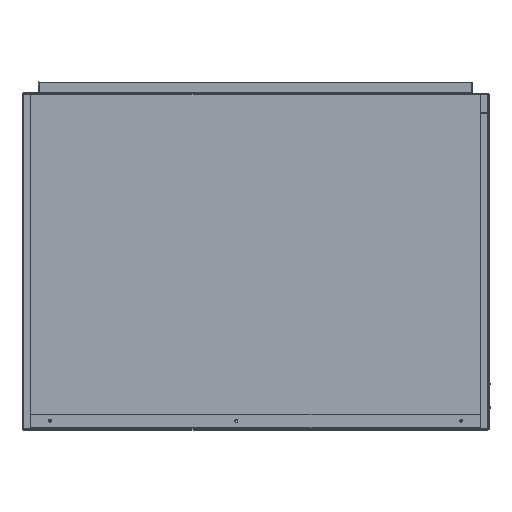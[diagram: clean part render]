
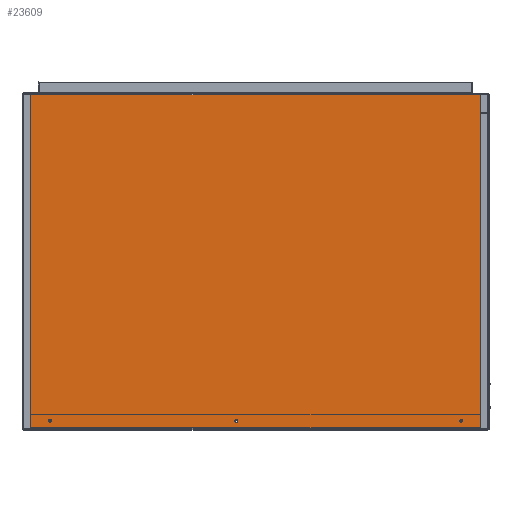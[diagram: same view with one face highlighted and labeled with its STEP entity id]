
A CAD part, top view. The second image highlights one B-rep face of the part: STEP entity #23609.
In plain terms, the highlighted planar face has unit normal (0, 0, 1) as drawn and (1, 0, 0) by its records, which use the part's own axes.
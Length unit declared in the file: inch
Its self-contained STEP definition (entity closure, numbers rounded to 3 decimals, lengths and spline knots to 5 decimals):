
#22 = EDGE_LOOP ( 'NONE', ( #13805, #5583 ) ) ;
#250 = DIRECTION ( 'NONE',  ( 0., 0., -1. ) ) ;
#304 = DIRECTION ( 'NONE',  ( -1., 0., 0. ) ) ;
#335 = CARTESIAN_POINT ( 'NONE',  ( 0.5245, 1.011, 1.76225 ) ) ;
#905 = EDGE_CURVE ( 'NONE', #24438, #24659, #1916, .T. ) ;
#1523 = EDGE_CURVE ( 'NONE', #11393, #22933, #18966, .T. ) ;
#1856 = CIRCLE ( 'NONE', #10457, 0.09375 ) ;
#1916 = CIRCLE ( 'NONE', #19115, 0.09375 ) ;
#2730 = DIRECTION ( 'NONE',  ( 0., 1., 0. ) ) ;
#3079 = CARTESIAN_POINT ( 'NONE',  ( 0.5245, 1.011, 28.234 ) ) ;
#3080 = VECTOR ( 'NONE', #4083, 39.37008 ) ;
#3573 = VECTOR ( 'NONE', #2730, 39.37008 ) ;
#4083 = DIRECTION ( 'NONE',  ( 0., 0., -1. ) ) ;
#4281 = DIRECTION ( 'NONE',  ( -1., 0., 0. ) ) ;
#4575 = ORIENTED_EDGE ( 'NONE', *, *, #18350, .F. ) ;
#4701 = DIRECTION ( 'NONE',  ( -1., 0., 0. ) ) ;
#5084 = ORIENTED_EDGE ( 'NONE', *, *, #12799, .T. ) ;
#5155 = DIRECTION ( 'NONE',  ( 0., 0., -1. ) ) ;
#5583 = ORIENTED_EDGE ( 'NONE', *, *, #12071, .T. ) ;
#5646 = EDGE_LOOP ( 'NONE', ( #13647, #12626, #4575, #21156 ) ) ;
#5970 = EDGE_CURVE ( 'NONE', #24659, #24438, #19665, .T. ) ;
#6460 = EDGE_CURVE ( 'NONE', #10548, #11393, #18307, .T. ) ;
#6500 = CARTESIAN_POINT ( 'NONE',  ( 0.5245, 0.5, 30. ) ) ;
#7520 = FACE_BOUND ( 'NONE', #19931, .T. ) ;
#7690 = DIRECTION ( 'NONE',  ( -1., 0., 0. ) ) ;
#8133 = CARTESIAN_POINT ( 'NONE',  ( 0.5245, 22.00212, 30. ) ) ;
#8147 = FACE_BOUND ( 'NONE', #20950, .T. ) ;
#8583 = DIRECTION ( 'NONE',  ( 0., 0., 1. ) ) ;
#8876 = VERTEX_POINT ( 'NONE', #10211 ) ;
#8958 = AXIS2_PLACEMENT_3D ( 'NONE', #3079, #17508, #5155 ) ;
#9288 = DIRECTION ( 'NONE',  ( -1., 0., 0. ) ) ;
#9539 = EDGE_CURVE ( 'NONE', #18430, #21309, #13102, .T. ) ;
#9608 = CARTESIAN_POINT ( 'NONE',  ( 0.5245, 0.54688, 30. ) ) ;
#10192 = CARTESIAN_POINT ( 'NONE',  ( 0.5245, 0.5, 0.08488 ) ) ;
#10207 = VERTEX_POINT ( 'NONE', #26725 ) ;
#10211 = CARTESIAN_POINT ( 'NONE',  ( 0.5245, 1.011, 28.32775 ) ) ;
#10247 = CIRCLE ( 'NONE', #13584, 0.09375 ) ;
#10439 = PLANE ( 'NONE',  #23937 ) ;
#10457 = AXIS2_PLACEMENT_3D ( 'NONE', #16659, #4281, #18719 ) ;
#10548 = VERTEX_POINT ( 'NONE', #20852 ) ;
#11393 = VERTEX_POINT ( 'NONE', #18779 ) ;
#12071 = EDGE_CURVE ( 'NONE', #8876, #10207, #10247, .T. ) ;
#12626 = ORIENTED_EDGE ( 'NONE', *, *, #13780, .F. ) ;
#12799 = EDGE_CURVE ( 'NONE', #21309, #18430, #1856, .T. ) ;
#12899 = CARTESIAN_POINT ( 'NONE',  ( 0.5245, 0.5, 29.91513 ) ) ;
#13102 = CIRCLE ( 'NONE', #25915, 0.09375 ) ;
#13381 = EDGE_CURVE ( 'NONE', #10207, #8876, #18620, .T. ) ;
#13584 = AXIS2_PLACEMENT_3D ( 'NONE', #21687, #9288, #23712 ) ;
#13647 = ORIENTED_EDGE ( 'NONE', *, *, #6460, .F. ) ;
#13780 = EDGE_CURVE ( 'NONE', #22000, #10548, #14035, .T. ) ;
#13805 = ORIENTED_EDGE ( 'NONE', *, *, #13381, .T. ) ;
#14035 = LINE ( 'NONE', #8133, #3080 ) ;
#14835 = DIRECTION ( 'NONE',  ( 0., 0., 1. ) ) ;
#15069 = CARTESIAN_POINT ( 'NONE',  ( 0.5245, 1.011, 1.6685 ) ) ;
#16659 = CARTESIAN_POINT ( 'NONE',  ( 0.5245, 1.011, 16.234 ) ) ;
#16785 = ORIENTED_EDGE ( 'NONE', *, *, #9539, .T. ) ;
#17060 = CARTESIAN_POINT ( 'NONE',  ( 0.5245, 1.011, 1.76225 ) ) ;
#17508 = DIRECTION ( 'NONE',  ( -1., 0., 0. ) ) ;
#17656 = CARTESIAN_POINT ( 'NONE',  ( 0.5245, 1.011, 16.32775 ) ) ;
#17841 = FACE_OUTER_BOUND ( 'NONE', #5646, .T. ) ;
#18307 = LINE ( 'NONE', #10192, #26323 ) ;
#18350 = EDGE_CURVE ( 'NONE', #22933, #22000, #20058, .T. ) ;
#18430 = VERTEX_POINT ( 'NONE', #25871 ) ;
#18529 = AXIS2_PLACEMENT_3D ( 'NONE', #17060, #4701, #19123 ) ;
#18540 = VECTOR ( 'NONE', #14835, 39.37008 ) ;
#18620 = CIRCLE ( 'NONE', #8958, 0.09375 ) ;
#18719 = DIRECTION ( 'NONE',  ( 0., 0., -1. ) ) ;
#18779 = CARTESIAN_POINT ( 'NONE',  ( 0.5245, 0.54687, 0.08488 ) ) ;
#18966 = LINE ( 'NONE', #9608, #18540 ) ;
#19115 = AXIS2_PLACEMENT_3D ( 'NONE', #335, #304, #250 ) ;
#19123 = DIRECTION ( 'NONE',  ( 0., 0., -1. ) ) ;
#19572 = ORIENTED_EDGE ( 'NONE', *, *, #905, .T. ) ;
#19665 = CIRCLE ( 'NONE', #18529, 0.09375 ) ;
#19687 = ORIENTED_EDGE ( 'NONE', *, *, #5970, .T. ) ;
#19931 = EDGE_LOOP ( 'NONE', ( #19687, #19572 ) ) ;
#20045 = CARTESIAN_POINT ( 'NONE',  ( 0.5245, 1.011, 16.234 ) ) ;
#20058 = LINE ( 'NONE', #12899, #3573 ) ;
#20852 = CARTESIAN_POINT ( 'NONE',  ( 0.5245, 22.00212, 0.08487 ) ) ;
#20944 = DIRECTION ( 'NONE',  ( -1., 0., 0. ) ) ;
#20950 = EDGE_LOOP ( 'NONE', ( #16785, #5084 ) ) ;
#21156 = ORIENTED_EDGE ( 'NONE', *, *, #1523, .F. ) ;
#21309 = VERTEX_POINT ( 'NONE', #17656 ) ;
#21687 = CARTESIAN_POINT ( 'NONE',  ( 0.5245, 1.011, 28.234 ) ) ;
#22000 = VERTEX_POINT ( 'NONE', #24598 ) ;
#22153 = DIRECTION ( 'NONE',  ( 0., 0., -1. ) ) ;
#22324 = CARTESIAN_POINT ( 'NONE',  ( 0.5245, 1.011, 1.856 ) ) ;
#22933 = VERTEX_POINT ( 'NONE', #23025 ) ;
#23025 = CARTESIAN_POINT ( 'NONE',  ( 0.5245, 0.54688, 29.91512 ) ) ;
#23330 = FACE_BOUND ( 'NONE', #22, .T. ) ;
#23609 = ADVANCED_FACE ( 'NONE', ( #17841, #7520, #8147, #23330 ), #10439, .F. ) ;
#23712 = DIRECTION ( 'NONE',  ( 0., 0., -1. ) ) ;
#23937 = AXIS2_PLACEMENT_3D ( 'NONE', #6500, #20944, #8583 ) ;
#24438 = VERTEX_POINT ( 'NONE', #22324 ) ;
#24598 = CARTESIAN_POINT ( 'NONE',  ( 0.5245, 22.00212, 29.91513 ) ) ;
#24625 = DIRECTION ( 'NONE',  ( 0., -1., 0. ) ) ;
#24659 = VERTEX_POINT ( 'NONE', #15069 ) ;
#25871 = CARTESIAN_POINT ( 'NONE',  ( 0.5245, 1.011, 16.14025 ) ) ;
#25915 = AXIS2_PLACEMENT_3D ( 'NONE', #20045, #7690, #22153 ) ;
#26323 = VECTOR ( 'NONE', #24625, 39.37008 ) ;
#26725 = CARTESIAN_POINT ( 'NONE',  ( 0.5245, 1.011, 28.14025 ) ) ;
